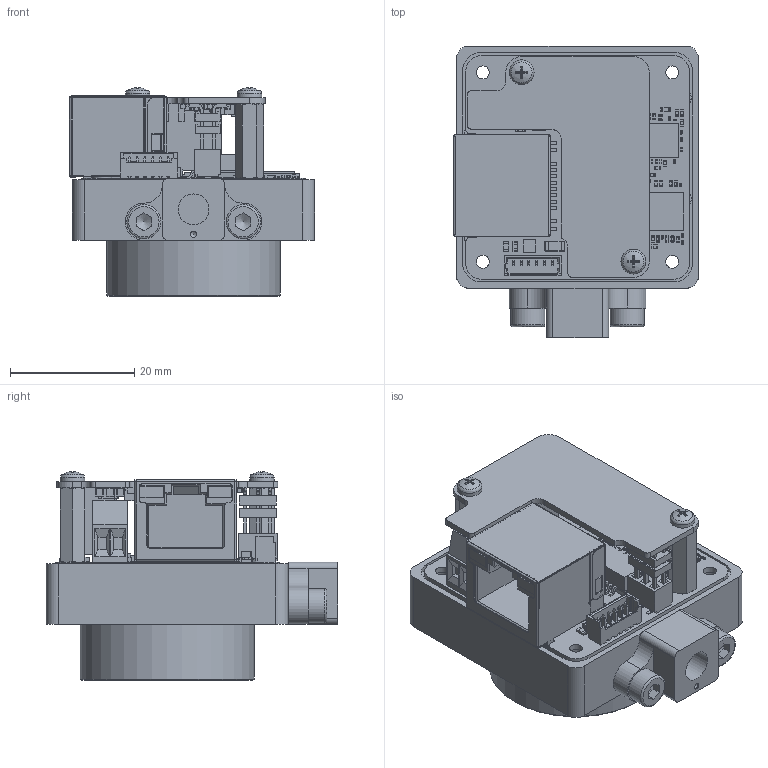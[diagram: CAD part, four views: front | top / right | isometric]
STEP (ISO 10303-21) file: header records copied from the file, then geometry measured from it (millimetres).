
FILE_DESCRIPTION(/* description */ (''),/* implementation_level */ '2;1');
FILE_NAME(/* name */ 'KSM_308-24-10-00-00_ZB C-MountKamera_GigE-4SB_IMX676_PoE add-on.stp',/* time_stamp */ '2025-10-15T13:17:55+02:00',/* author */ ('khw'),/* organization */ ('TIS/ Germany'),/* preprocessor_version */ 'ST-DEVELOPER v20',/* originating_system */ 'Autodesk Inventor 2025',/* authorisation */ '520025 mm^3');
FILE_SCHEMA (('AUTOMOTIVE_DESIGN { 1 0 10303 214 3 1 1 }'));
Products named in the file (4): KSM_308-24-10-00-00_ZB C-MountKamera_GigE-4SB_IMX676_PoE add-on; 2_308-24-10-00-00_ZB C-MountKamera_GigE-4SB_IMX676_PoE add-on; TripodAdapter 14-20-UNC; Zylinderschraube M3x6
Assembly tree (4 placements, depth 2):
  KSM_308-24-10-00-00_ZB C-MountKamera_GigE-4SB_IMX676_PoE add-on
    2_308-24-10-00-00_ZB C-MountKamera_GigE-4SB_IMX676_PoE add-on
    TripodAdapter 14-20-UNC
    Zylinderschraube M3x6  x2
Bounding box: 39.49 x 47 x 33.59 mm (x, y, z)
Volume: 18654.7 mm3; surface area: 17132.9 mm2
Topology: 11 solids, 11 shells, 9724 faces, 22814 edges, 12213 vertices
Faces by surface type: cylinder 4058, plane 3651, sphere 962, torus 958, cone 61, bspline 34
Full cylindrical faces by diameter (mm): 0.3 x1, 0.5 x6, 0.739 x1, 1 x1, 1.05 x2, 1.2 x2, 1.567 x2, 2.032 x2, 2.1 x4, 2.459 x8, 3 x2, 3.2 x2, 4.978 x1, 5.5 x2, 24.536 x1, 28 x1
Entity records: 275469 total; most frequent: DIRECTION 49284, CARTESIAN_POINT 45450, ORIENTED_EDGE 43622, EDGE_CURVE 21811, AXIS2_PLACEMENT_3D 17957, LINE 13370, VECTOR 13370, VERTEX_POINT 12189
